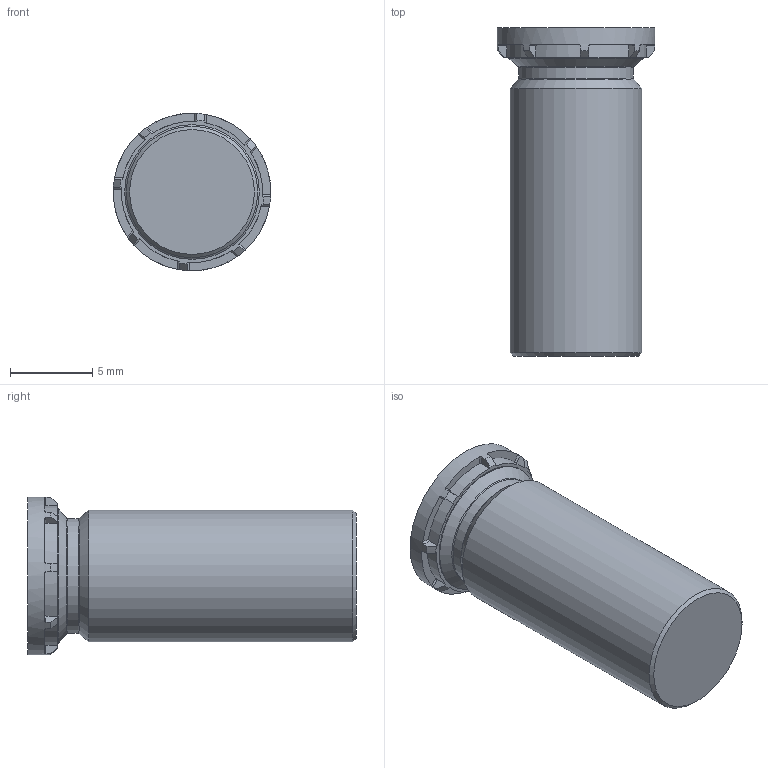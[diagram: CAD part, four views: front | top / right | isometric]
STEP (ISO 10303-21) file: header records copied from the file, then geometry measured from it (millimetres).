
FILE_DESCRIPTION(/* description */ (''),/* implementation_level */ '2;1');
FILE_NAME(/* name */ 'C:\Users\keval.kumar\Desktop\Fastit\Clinch Screw- FH Range\M8\Clinch Screw-FH Range_M8x20.stp',/* time_stamp */ '2024-03-12T12:17:56+06:00',/* author */ ('keval.kumar'),/* organization */ (''),/* preprocessor_version */ 'ST-DEVELOPER v18.1',/* originating_system */ 'Autodesk Inventor 2022',/* authorisation */ '');
FILE_SCHEMA (('AUTOMOTIVE_DESIGN { 1 0 10303 214 3 1 1 }'));
Length unit declared in the file: millimetre
Products named in the file (1): Clinch Screw-FH Range_M8x20
Bounding box: 9.6 x 20 x 9.6 mm (x, y, z)
Volume: 1019.9 mm3; surface area: 659 mm2
Topology: 1 solids, 1 shells, 68 faces, 193 edges, 128 vertices
Faces by surface type: plane 43, cylinder 12, cone 11, torus 2
Full cylindrical faces by diameter (mm): 7 x1, 8 x1, 8.2 x1, 9.6 x1
Entity records: 2278 total; most frequent: CARTESIAN_POINT 422, DIRECTION 405, ORIENTED_EDGE 386, EDGE_CURVE 193, AXIS2_PLACEMENT_3D 159, VERTEX_POINT 128, LINE 87, VECTOR 87
